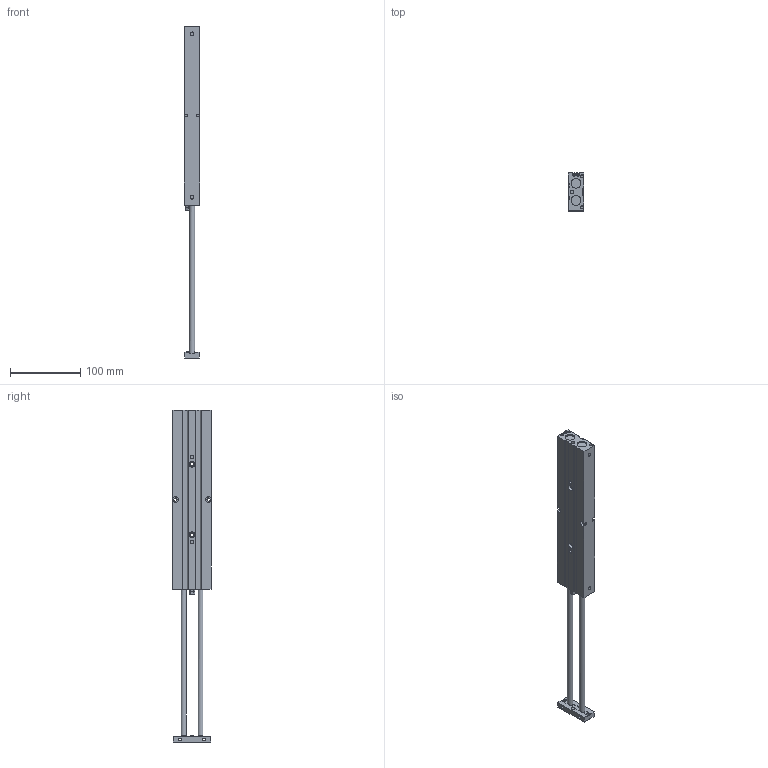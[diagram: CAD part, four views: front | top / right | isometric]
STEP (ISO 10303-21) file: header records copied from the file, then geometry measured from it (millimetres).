
FILE_DESCRIPTION((''),'2;1');
FILE_NAME('I:\3D電子目錄\氣缸\TD\TD16\TD16\TD16x200.stp','2007-08-06T09:38:30',('Administrator'),(''),'Autodesk Inventor 2008','Autodesk Inventor 2008','');
FILE_SCHEMA(('AUTOMOTIVE_DESIGN { 1 0 10303 214 1 1 1 1 }'));
Length unit declared in the file: millimetre
Products named in the file (1): TD16X200
Bounding box: 22 x 54 x 471 mm (x, y, z)
Volume: 299698.6 mm3; surface area: 70069.9 mm2
Topology: 1 solids, 3 shells, 179 faces, 465 edges, 304 vertices
Faces by surface type: plane 116, cylinder 42, bspline 12, cone 7, torus 2
Full cylindrical faces by diameter (mm): 4 x4, 4.5 x4, 5 x8, 6 x2, 7 x2, 8 x4, 14 x4
Entity records: 5819 total; most frequent: CARTESIAN_POINT 1627, ORIENTED_EDGE 824, DIRECTION 820, EDGE_CURVE 412, VERTEX_POINT 292, AXIS2_PLACEMENT_3D 274, VECTOR 272, LINE 272
